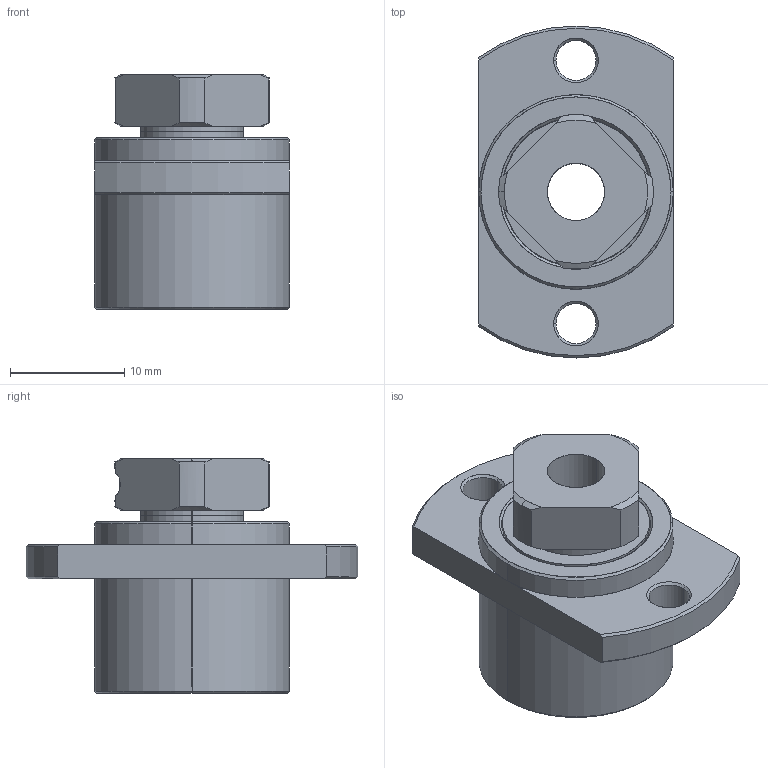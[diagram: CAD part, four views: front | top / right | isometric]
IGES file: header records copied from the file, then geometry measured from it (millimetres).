
Start section: SolidWorks IGES file using analytic representation for surfaces
Global section: file name: C:\Users\watanabe\Desktop\MSU-5\MSU5G.IGS; native system: SolidWorks 2010; preprocessor: SolidWorks 2010; author: watanabe; date: 120613.115608; units: millimetre
Bounding box: 17 x 29 x 20.5 mm (x, y, z)
Surface area: 4260.4 mm2 (no closed solid volume)
Topology: 0 solids, 0 shells, 123 faces, 1700 edges, 1700 vertices
Faces by surface type: revolution 72, bspline 51
